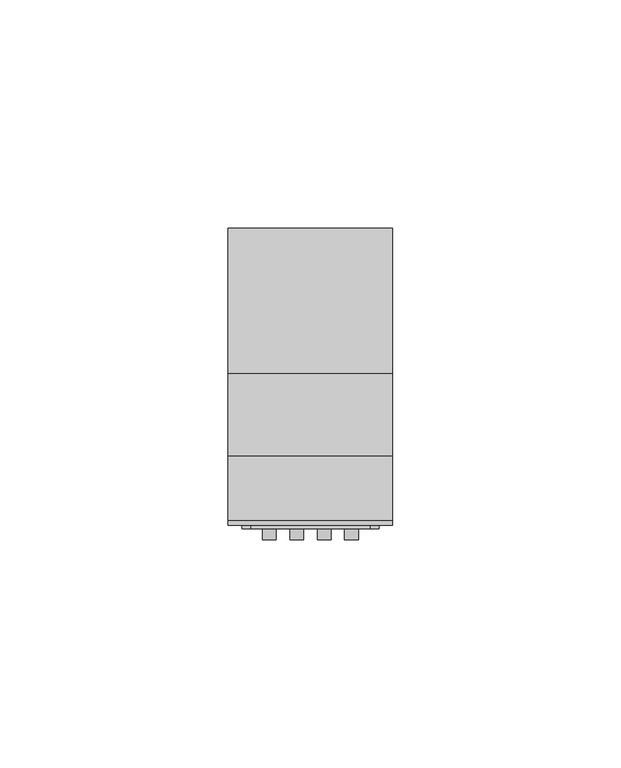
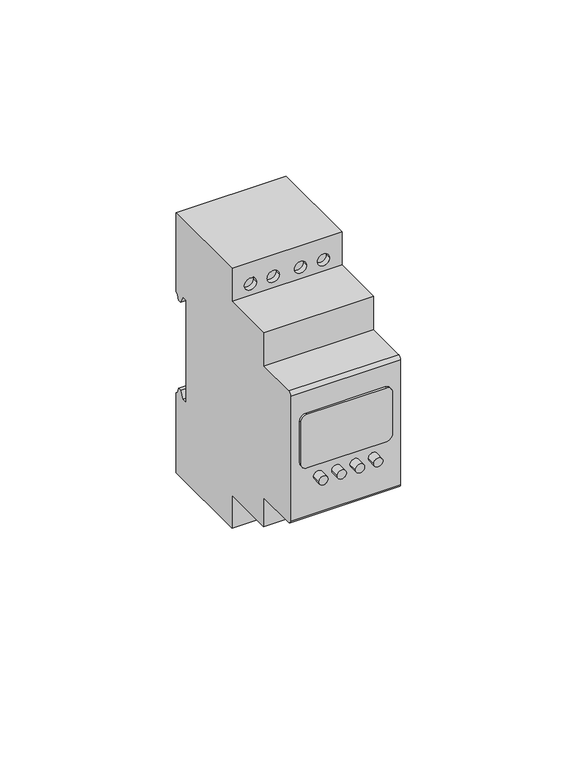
"""IFC4 building model written with IfcOpenShell, lengths in millimetres: proxy geometry, TDM_РЕЛЕ КОНТРОЛЯ НАПРЯЖЕНИЯ СЕРИИ РН 12 : РН 12-3х400/240 В."""

from ifc_helpers import new_model, si_unit, point, frame, frame_2d, origin, place, context, project, spatial, polyline, circle_curve, trimmed, segment, composite_curve, outline, extrude, source, transform, mapped, element, save
from ifc_brep_helpers import plane_surface, cylinder_surface, revolved_surface, advanced_brep


def electrical_equipment_0d89e3ab(model_context):
    return source(origin(), model_context, "Body", "SolidModel", [
        extrude(outline(composite_curve([segment(polyline([(13.2057143, 13.0), (13.2057143, -13.0)]), True, "CONTINUOUS"), segment(trimmed(circle_curve(frame_2d((11.2057143, -13.0)), 2.0), [point((13.2057143, -13.0))], [point((11.2057143, -15.0))], False, "CARTESIAN"), True, "CONTINUOUS"), segment(polyline([(11.2057143, -15.0), (-3.2942857, -15.0)]), True, "CONTINUOUS"), segment(trimmed(circle_curve(frame_2d((-3.2942857, -13.0)), 2.0), [point((-3.2942857, -15.0))], [point((-5.2942857, -13.0))], False, "CARTESIAN"), True, "CONTINUOUS"), segment(polyline([(-5.2942857, -13.0), (-5.2942857, 13.0)]), True, "CONTINUOUS"), segment(trimmed(circle_curve(frame_2d((-3.2942857, 13.0)), 2.0), [point((-5.2942857, 13.0))], [point((-3.2942857, 15.0))], False, "CARTESIAN"), True, "CONTINUOUS"), segment(polyline([(-3.2942857, 15.0), (11.2057143, 15.0)]), True, "CONTINUOUS"), segment(trimmed(circle_curve(frame_2d((11.2057143, 13.0)), 2.0), [point((11.2057143, 15.0))], [point((13.2057143, 13.0))], False, "CARTESIAN"), True, "CONTINUOUS")], self_intersect=False)), frame((0.0, -28.1760611, 0.0), z_axis=(0.0, 1.0, 0.0), x_axis=(0.0, 0.0, 1.0)), (0.0, 0.0, 1.0), 0.6760611),
        extrude(outline(composite_curve([segment(trimmed(circle_curve(frame_2d((-9.6256041, -3.0)), 1.5), [point((-9.6256041, -4.5))], [point((-9.6256041, -1.5))], False, "CARTESIAN"), True, "CONTINUOUS"), segment(trimmed(circle_curve(frame_2d((-9.6256041, -3.0)), 1.5), [point((-9.6256041, -1.5))], [point((-9.6256041, -4.5))], False, "CARTESIAN"), True, "CONTINUOUS")], self_intersect=False)), frame((0.0, -30.5593993, 0.0), z_axis=(0.0, 1.0, 0.0), x_axis=(0.0, 0.0, 1.0)), (0.0, 0.0, 1.0), 3.0593993),
        extrude(outline(composite_curve([segment(trimmed(circle_curve(frame_2d((-9.6256041, -9.0)), 1.5), [point((-9.6256041, -10.5))], [point((-9.6256041, -7.5))], False, "CARTESIAN"), True, "CONTINUOUS"), segment(trimmed(circle_curve(frame_2d((-9.6256041, -9.0)), 1.5), [point((-9.6256041, -7.5))], [point((-9.6256041, -10.5))], False, "CARTESIAN"), True, "CONTINUOUS")], self_intersect=False)), frame((0.0, -30.5593993, 0.0), z_axis=(0.0, 1.0, 0.0), x_axis=(0.0, 0.0, 1.0)), (0.0, 0.0, 1.0), 3.0593993),
        extrude(outline(composite_curve([segment(trimmed(circle_curve(frame_2d((-9.6256041, 3.0)), 1.5), [point((-9.6256041, 4.5))], [point((-9.6256041, 1.5))], False, "CARTESIAN"), True, "CONTINUOUS"), segment(trimmed(circle_curve(frame_2d((-9.6256041, 3.0)), 1.5), [point((-9.6256041, 1.5))], [point((-9.6256041, 4.5))], False, "CARTESIAN"), True, "CONTINUOUS")], self_intersect=False)), frame((0.0, -30.5593993, 0.0), z_axis=(0.0, 1.0, 0.0), x_axis=(0.0, 0.0, 1.0)), (0.0, 0.0, 1.0), 3.0593993),
        extrude(outline(composite_curve([segment(trimmed(circle_curve(frame_2d((-9.6256041, 9.0)), 1.5), [point((-9.6256041, 10.5))], [point((-9.6256041, 7.5))], False, "CARTESIAN"), True, "CONTINUOUS"), segment(trimmed(circle_curve(frame_2d((-9.6256041, 9.0)), 1.5), [point((-9.6256041, 7.5))], [point((-9.6256041, 10.5))], False, "CARTESIAN"), True, "CONTINUOUS")], self_intersect=False)), frame((0.0, -30.5593993, 0.0), z_axis=(0.0, 1.0, 0.0), x_axis=(0.0, 0.0, 1.0)), (0.0, 0.0, 1.0), 3.0593993),
        extrude(outline(polyline([(17.0, 16.6821204), (17.0, 7.9080349), (-17.0, 7.9080349), (-17.0, 16.6821204), (17.0, 16.6821204)])), frame((0.0, 0.0, -44.0625), z_axis=(0.0, 0.0, 1.0), x_axis=(1.0, 0.0, 0.0)), (0.0, 0.0, 1.0), 87.8126081),
        advanced_brep(
        [(18.0, 31.7632568, 18.2057143), (18.0, 33.4745816, 18.2057143), (18.0, 35.0790621, 15.4266726), (18.0, 36.2042493, 15.4266726), (18.0, 36.5256071, 17.2491835), (18.0, 37.5, 17.8117495), (18.0, 37.5, 45.0), (18.0, 5.7632568, 45.0), (18.0, 5.7632568, 33.5280507), (18.0, -12.2367432, 33.5280507), (18.0, -12.2367432, 22.0), (18.0, -26.3777313, 22.0), (18.0, -27.5, 20.8777313), (18.0, -27.5, -22.3875602), (18.0, -26.3875602, -23.5), (18.0, -12.2367432, -23.5), (18.0, -12.2367432, -33.5280507), (18.0, 5.7632568, -33.5280507), (18.0, 5.7632568, -45.0), (18.0, 37.5, -45.0), (18.0, 37.5, -17.4003208), (18.0, 36.5256071, -16.8377548), (18.0, 36.2042493, -15.0152439), (18.0, 35.0790621, -15.0152439), (18.0, 33.7632568, -17.2942857), (18.0, 31.7632568, -17.2942857), (-18.0, 31.7632568, 18.2057143), (-18.0, 31.7632568, -17.2942857), (-18.0, 33.7632568, -17.2942857), (-18.0, 35.0790621, -15.0152439), (-18.0, 36.2042493, -15.0152439), (-18.0, 36.5256071, -16.8377548), (-18.0, 37.5, -17.4003208), (-18.0, 37.5, -45.0), (-18.0, 5.7632568, -45.0), (-18.0, 5.7632568, -33.5280507), (-18.0, -12.2367432, -33.5280507), (-18.0, -12.2367432, -23.5), (-18.0, -26.3875602, -23.5), (-18.0, -27.5, -22.3875602), (-18.0, -27.5, 20.8777313), (-18.0, -26.3777313, 22.0), (-18.0, -12.2367432, 22.0), (-18.0, -12.2367432, 33.5280507), (-18.0, 5.7632568, 33.5280507), (-18.0, 5.7632568, 45.0), (-18.0, 37.5, 45.0), (-18.0, 37.5, 17.8117495), (-18.0, 36.5256071, 17.2491835), (-18.0, 36.2042493, 15.4266726), (-18.0, 35.0790621, 15.4266726), (-18.0, 33.4745816, 18.2057143), (-2.4760987, 9.3036074, -38.6885116), (-6.4760987, 9.3036074, -38.6885116), (-2.4760987, 9.3036074, 37.4385116), (-6.4760987, 9.3036074, 37.4385116), (-9.9760987, 9.3036074, -38.6885116), (-13.9760987, 9.3036074, -38.6885116), (-9.9760987, 9.3036074, 37.4385116), (-13.9760987, 9.3036074, 37.4385116), (2.4760987, 9.3036074, -38.6885116), (6.4760987, 9.3036074, -38.6885116), (2.4760987, 9.3036074, 37.4385116), (6.4760987, 9.3036074, 37.4385116), (9.9760987, 9.3036074, -38.6885116), (13.9760987, 9.3036074, -38.6885116), (9.9760987, 9.3036074, 37.4385116), (13.9760987, 9.3036074, 37.4385116), (-2.4760987, 5.7632568, -38.6885116), (-6.4760987, 5.7632568, -38.6885116), (-2.4760987, 5.7632568, 37.4385116), (-6.4760987, 5.7632568, 37.4385116), (-9.9760987, 5.7632568, -38.6885116), (-13.9760987, 5.7632568, -38.6885116), (-9.9760987, 5.7632568, 37.4385116), (-13.9760987, 5.7632568, 37.4385116), (2.4760987, 5.7632568, -38.6885116), (6.4760987, 5.7632568, -38.6885116), (2.4760987, 5.7632568, 37.4385116), (6.4760987, 5.7632568, 37.4385116), (9.9760987, 5.7632568, -38.6885116), (13.9760987, 5.7632568, -38.6885116), (9.9760987, 5.7632568, 37.4385116), (13.9760987, 5.7632568, 37.4385116)],
        [
            (0, 1),
            (1, 2),
            (2, 3),
            (3, 4),
            (4, 5),
            (5, 6),
            (6, 7),
            (7, 8),
            (8, 9),
            (9, 10),
            (10, 11),
            (11, 12, circle_curve(frame((18.0, -26.3777313, 20.8777313), z_axis=(1.0, 0.0, 0.0), x_axis=(0.0, -1.0, 0.0)), 1.1222687)),
            (12, 13),
            (13, 14, circle_curve(frame((18.0, -26.3875602, -22.3875602), z_axis=(1.0, 0.0, 0.0), x_axis=(0.0, -1.0, 0.0)), 1.1124398)),
            (14, 15),
            (15, 16),
            (16, 17),
            (17, 18),
            (18, 19),
            (19, 20),
            (20, 21),
            (21, 22),
            (22, 23),
            (23, 24),
            (24, 25),
            (25, 0),
            (26, 27),
            (27, 28),
            (28, 29),
            (29, 30),
            (30, 31),
            (31, 32),
            (32, 33),
            (33, 34),
            (34, 35),
            (35, 36),
            (36, 37),
            (37, 38),
            (38, 39, circle_curve(frame((-18.0, -26.3875602, -22.3875602), z_axis=(-1.0, 0.0, 0.0), x_axis=(0.0, -1.0, 0.0)), 1.1124398)),
            (39, 40),
            (40, 41, circle_curve(frame((-18.0, -26.3777313, 20.8777313), z_axis=(-1.0, 0.0, 0.0), x_axis=(0.0, -1.0, 0.0)), 1.1222687)),
            (41, 42),
            (42, 43),
            (43, 44),
            (44, 45),
            (45, 46),
            (46, 47),
            (47, 48),
            (48, 49),
            (49, 50),
            (50, 51),
            (51, 26),
            (0, 26),
            (51, 1),
            (50, 2),
            (49, 3),
            (48, 4),
            (47, 5),
            (46, 6),
            (45, 7),
            (10, 42),
            (41, 11),
            (40, 12),
            (39, 13),
            (14, 38),
            (37, 15),
            (18, 34),
            (33, 19),
            (32, 20),
            (31, 21),
            (30, 22),
            (29, 23),
            (28, 24),
            (27, 25),
            (52, 53, circle_curve(frame((-4.4760987, 9.3036074, -38.6885116), z_axis=(0.0, -1.0, 0.0), x_axis=(-1.0, 0.0, 0.0)), 2.0)),
            (53, 52, circle_curve(frame((-4.4760987, 9.3036074, -38.6885116), z_axis=(0.0, -1.0, 0.0), x_axis=(-1.0, 0.0, 0.0)), 2.0)),
            (54, 55, circle_curve(frame((-4.4760987, 9.3036074, 37.4385116), z_axis=(0.0, -1.0, 0.0), x_axis=(-1.0, 0.0, 0.0)), 2.0)),
            (55, 54, circle_curve(frame((-4.4760987, 9.3036074, 37.4385116), z_axis=(0.0, -1.0, 0.0), x_axis=(-1.0, 0.0, 0.0)), 2.0)),
            (56, 57, circle_curve(frame((-11.9760987, 9.3036074, -38.6885116), z_axis=(0.0, -1.0, 0.0), x_axis=(-1.0, 0.0, 0.0)), 2.0)),
            (57, 56, circle_curve(frame((-11.9760987, 9.3036074, -38.6885116), z_axis=(0.0, -1.0, 0.0), x_axis=(-1.0, 0.0, 0.0)), 2.0)),
            (58, 59, circle_curve(frame((-11.9760987, 9.3036074, 37.4385116), z_axis=(0.0, -1.0, 0.0), x_axis=(-1.0, 0.0, 0.0)), 2.0)),
            (59, 58, circle_curve(frame((-11.9760987, 9.3036074, 37.4385116), z_axis=(0.0, -1.0, 0.0), x_axis=(-1.0, 0.0, 0.0)), 2.0)),
            (60, 61, circle_curve(frame((4.4760987, 9.3036074, -38.6885116), z_axis=(0.0, -1.0, 0.0), x_axis=(1.0, 0.0, 0.0)), 2.0)),
            (61, 60, circle_curve(frame((4.4760987, 9.3036074, -38.6885116), z_axis=(0.0, -1.0, 0.0), x_axis=(1.0, 0.0, 0.0)), 2.0)),
            (62, 63, circle_curve(frame((4.4760987, 9.3036074, 37.4385116), z_axis=(0.0, -1.0, 0.0), x_axis=(1.0, 0.0, 0.0)), 2.0)),
            (63, 62, circle_curve(frame((4.4760987, 9.3036074, 37.4385116), z_axis=(0.0, -1.0, 0.0), x_axis=(1.0, 0.0, 0.0)), 2.0)),
            (64, 65, circle_curve(frame((11.9760987, 9.3036074, -38.6885116), z_axis=(0.0, -1.0, 0.0), x_axis=(1.0, 0.0, 0.0)), 2.0)),
            (65, 64, circle_curve(frame((11.9760987, 9.3036074, -38.6885116), z_axis=(0.0, -1.0, 0.0), x_axis=(1.0, 0.0, 0.0)), 2.0)),
            (66, 67, circle_curve(frame((11.9760987, 9.3036074, 37.4385116), z_axis=(0.0, -1.0, 0.0), x_axis=(1.0, 0.0, 0.0)), 2.0)),
            (67, 66, circle_curve(frame((11.9760987, 9.3036074, 37.4385116), z_axis=(0.0, -1.0, 0.0), x_axis=(1.0, 0.0, 0.0)), 2.0)),
            (52, 68),
            (68, 69, circle_curve(frame((-4.4760987, 5.7632568, -38.6885116), z_axis=(0.0, -1.0, 0.0), x_axis=(-1.0, 0.0, 0.0)), 2.0)),
            (69, 53),
            (69, 68, circle_curve(frame((-4.4760987, 5.7632568, -38.6885116), z_axis=(0.0, -1.0, 0.0), x_axis=(-1.0, 0.0, 0.0)), 2.0)),
            (54, 70),
            (70, 71, circle_curve(frame((-4.4760987, 5.7632568, 37.4385116), z_axis=(0.0, -1.0, 0.0), x_axis=(-1.0, 0.0, 0.0)), 2.0)),
            (71, 55),
            (71, 70, circle_curve(frame((-4.4760987, 5.7632568, 37.4385116), z_axis=(0.0, -1.0, 0.0), x_axis=(-1.0, 0.0, 0.0)), 2.0)),
            (56, 72),
            (72, 73, circle_curve(frame((-11.9760987, 5.7632568, -38.6885116), z_axis=(0.0, -1.0, 0.0), x_axis=(-1.0, 0.0, 0.0)), 2.0)),
            (73, 57),
            (73, 72, circle_curve(frame((-11.9760987, 5.7632568, -38.6885116), z_axis=(0.0, -1.0, 0.0), x_axis=(-1.0, 0.0, 0.0)), 2.0)),
            (58, 74),
            (74, 75, circle_curve(frame((-11.9760987, 5.7632568, 37.4385116), z_axis=(0.0, -1.0, 0.0), x_axis=(-1.0, 0.0, 0.0)), 2.0)),
            (75, 59),
            (75, 74, circle_curve(frame((-11.9760987, 5.7632568, 37.4385116), z_axis=(0.0, -1.0, 0.0), x_axis=(-1.0, 0.0, 0.0)), 2.0)),
            (60, 76),
            (76, 77, circle_curve(frame((4.4760987, 5.7632568, -38.6885116), z_axis=(0.0, -1.0, 0.0), x_axis=(1.0, 0.0, 0.0)), 2.0)),
            (77, 61),
            (77, 76, circle_curve(frame((4.4760987, 5.7632568, -38.6885116), z_axis=(0.0, -1.0, 0.0), x_axis=(1.0, 0.0, 0.0)), 2.0)),
            (62, 78),
            (78, 79, circle_curve(frame((4.4760987, 5.7632568, 37.4385116), z_axis=(0.0, -1.0, 0.0), x_axis=(1.0, 0.0, 0.0)), 2.0)),
            (79, 63),
            (79, 78, circle_curve(frame((4.4760987, 5.7632568, 37.4385116), z_axis=(0.0, -1.0, 0.0), x_axis=(1.0, 0.0, 0.0)), 2.0)),
            (64, 80),
            (80, 81, circle_curve(frame((11.9760987, 5.7632568, -38.6885116), z_axis=(0.0, -1.0, 0.0), x_axis=(1.0, 0.0, 0.0)), 2.0)),
            (81, 65),
            (81, 80, circle_curve(frame((11.9760987, 5.7632568, -38.6885116), z_axis=(0.0, -1.0, 0.0), x_axis=(1.0, 0.0, 0.0)), 2.0)),
            (66, 82),
            (82, 83, circle_curve(frame((11.9760987, 5.7632568, 37.4385116), z_axis=(0.0, -1.0, 0.0), x_axis=(1.0, 0.0, 0.0)), 2.0)),
            (83, 67),
            (83, 82, circle_curve(frame((11.9760987, 5.7632568, 37.4385116), z_axis=(0.0, -1.0, 0.0), x_axis=(1.0, 0.0, 0.0)), 2.0)),
            (44, 8),
            (43, 9),
            (36, 16),
            (35, 17),
        ],
        [
            plane_surface(frame((18.0, 31.7632568, 18.2057143), z_axis=(1.0, 0.0, 0.0), x_axis=(0.0, 1.0, 0.0))),
            plane_surface(frame((-18.0, 31.7632568, 18.2057143), z_axis=(-1.0, 0.0, 0.0), x_axis=(0.0, -1.0, 0.0))),
            plane_surface(frame((18.0, 31.7632568, 18.2057143), z_axis=(0.0, 0.0, -1.0), x_axis=(-1.0, 0.0, 0.0))),
            plane_surface(frame((18.0, 33.4745816, 18.2057143), z_axis=(0.0, -0.8660254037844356, -0.5000000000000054), x_axis=(-1.0, 0.0, 0.0))),
            plane_surface(frame((18.0, 35.0790621, 15.4266726), z_axis=(0.0, 0.0, -1.0), x_axis=(-1.0, 0.0, 0.0))),
            plane_surface(frame((18.0, 36.2042493, 15.4266726), z_axis=(0.0, 0.984807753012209, -0.17364817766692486), x_axis=(-1.0, 0.0, 0.0))),
            plane_surface(frame((18.0, 36.5256071, 17.2491835), z_axis=(0.0, 0.5000000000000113, -0.8660254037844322), x_axis=(-1.0, 0.0, 0.0))),
            plane_surface(frame((18.0, 37.5, 17.8117495), z_axis=(0.0, 1.0, 0.0), x_axis=(-1.0, 0.0, 0.0))),
            plane_surface(frame((18.0, 37.5, 45.0), z_axis=(0.0, 0.0, 1.0), x_axis=(-1.0, 0.0, 0.0))),
            plane_surface(frame((18.0, -12.2367432, 22.0), z_axis=(0.0, 0.0, 1.0), x_axis=(-1.0, 0.0, 0.0))),
            cylinder_surface(frame((-18.0, -26.3777313, 20.8777313), z_axis=(1.0, 0.0, 0.0), x_axis=(0.0, -1.0, 0.0)), 1.1222687),
            plane_surface(frame((18.0, -27.5, 20.8777313), z_axis=(0.0, -1.0, 0.0), x_axis=(-1.0, 0.0, 0.0))),
            plane_surface(frame((18.0, -26.3875602, -23.5), z_axis=(0.0, 0.0, -1.0), x_axis=(-1.0, 0.0, 0.0))),
            plane_surface(frame((18.0, 5.7632568, -45.0), z_axis=(0.0, 0.0, -1.0), x_axis=(-1.0, 0.0, 0.0))),
            plane_surface(frame((18.0, 37.5, -45.0), z_axis=(0.0, 1.0, 0.0), x_axis=(-1.0, 0.0, 0.0))),
            plane_surface(frame((18.0, 37.5, -17.4003208), z_axis=(0.0, 0.5000000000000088, 0.8660254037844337), x_axis=(-1.0, 0.0, 0.0))),
            plane_surface(frame((18.0, 36.5256071, -16.8377548), z_axis=(0.0, 0.9848077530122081, 0.17364817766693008), x_axis=(-1.0, 0.0, 0.0))),
            plane_surface(frame((18.0, 36.2042493, -15.0152439), z_axis=(0.0, 0.0, 1.0), x_axis=(-1.0, 0.0, 0.0))),
            plane_surface(frame((18.0, 35.0790621, -15.0152439), z_axis=(0.0, -0.8660254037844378, 0.5000000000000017), x_axis=(-1.0, 0.0, 0.0))),
            plane_surface(frame((18.0, 33.7632568, -17.2942857), z_axis=(0.0, 0.0, 1.0), x_axis=(-1.0, 0.0, 0.0))),
            plane_surface(frame((18.0, 31.7632568, -17.2942857), z_axis=(0.0, 1.0, 0.0), x_axis=(-1.0, 0.0, 0.0))),
            cylinder_surface(frame((-18.0, -26.3875602, -22.3875602), z_axis=(1.0, 0.0, 0.0), x_axis=(0.0, -1.0, 0.0)), 1.1124398),
            plane_surface(frame((-6.4760987, 9.3036074, -38.6885116), z_axis=(0.0, -1.0, 0.0), x_axis=(0.0, 0.0, 1.0))),
            revolved_surface(polyline([(-6.4760987, 5.7632568, -38.6885116), (-6.4760987, 9.3036074, -38.6885116)]), (-4.4760987, 9.3036074, -38.6885116), (0.0, -1.0, 0.0)),
            revolved_surface(polyline([(-6.4760987, 5.7632568, 37.4385116), (-6.4760987, 9.3036074, 37.4385116)]), (-4.4760987, 0.0, 37.4385116), (0.0, -1.0, 0.0)),
            revolved_surface(polyline([(-13.9760987, 5.7632568, -38.6885116), (-13.9760987, 9.3036074, -38.6885116)]), (-11.9760987, 0.0, -38.6885116), (0.0, -1.0, 0.0)),
            revolved_surface(polyline([(-13.9760987, 5.7632568, 37.4385116), (-13.9760987, 9.3036074, 37.4385116)]), (-11.9760987, 0.0, 37.4385116), (0.0, -1.0, 0.0)),
            revolved_surface(polyline([(6.4760987, 5.7632568, -38.6885116), (6.4760987, 9.3036074, -38.6885116)]), (4.4760987, 0.0, -38.6885116), (0.0, -1.0, 0.0)),
            revolved_surface(polyline([(6.4760987, 5.7632568, 37.4385116), (6.4760987, 9.3036074, 37.4385116)]), (4.4760987, 0.0, 37.4385116), (0.0, -1.0, 0.0)),
            revolved_surface(polyline([(13.9760987, 5.7632568, -38.6885116), (13.9760987, 9.3036074, -38.6885116)]), (11.9760987, 0.0, -38.6885116), (0.0, -1.0, 0.0)),
            revolved_surface(polyline([(13.9760987, 5.7632568, 37.4385116), (13.9760987, 9.3036074, 37.4385116)]), (11.9760987, 0.0, 37.4385116), (0.0, -1.0, 0.0)),
            plane_surface(frame((18.0, 5.7632568, 45.0), z_axis=(0.0, -1.0, 0.0), x_axis=(-1.0, 0.0, 0.0))),
            plane_surface(frame((18.0, 5.7632568, 33.5280507), z_axis=(0.0, 0.0, 1.0), x_axis=(-1.0, 0.0, 0.0))),
            plane_surface(frame((18.0, -12.2367432, 33.5280507), z_axis=(0.0, -1.0, 0.0), x_axis=(-1.0, 0.0, 0.0))),
            plane_surface(frame((18.0, -12.2367432, -23.5), z_axis=(0.0, -1.0, 0.0), x_axis=(-1.0, 0.0, 0.0))),
            plane_surface(frame((18.0, -12.2367432, -33.5280507), z_axis=(0.0, 0.0, -1.0), x_axis=(-1.0, 0.0, 0.0))),
            plane_surface(frame((18.0, 5.7632568, -33.5280507), z_axis=(0.0, -1.0, 0.0), x_axis=(-1.0, 0.0, 0.0))),
        ],
        [
            (0, [[1, 2, 3, 4, 5, 6, 7, 8, 9, 10, 11, 12, 13, 14, 15, 16, 17, 18, 19, 20, 21, 22, 23, 24, 25, 26]]),
            (1, [[27, 28, 29, 30, 31, 32, 33, 34, 35, 36, 37, 38, 39, 40, 41, 42, 43, 44, 45, 46, 47, 48, 49, 50, 51, 52]]),
            (2, [[-1, 53, -52, 54]]),
            (3, [[-2, -54, -51, 55]]),
            (4, [[-3, -55, -50, 56]]),
            (5, [[-4, -56, -49, 57]]),
            (6, [[-5, -57, -48, 58]]),
            (7, [[-6, -58, -47, 59]]),
            (8, [[-7, -59, -46, 60]]),
            (9, [[-11, 61, -42, 62]]),
            (10, [[-12, -62, -41, 63]]),
            (11, [[-13, -63, -40, 64]]),
            (12, [[-15, 65, -38, 66]]),
            (13, [[-19, 67, -34, 68]]),
            (14, [[-20, -68, -33, 69]]),
            (15, [[-21, -69, -32, 70]]),
            (16, [[-22, -70, -31, 71]]),
            (17, [[-23, -71, -30, 72]]),
            (18, [[-24, -72, -29, 73]]),
            (19, [[-25, -73, -28, 74]]),
            (20, [[-26, -74, -27, -53]]),
            (21, [[-14, -64, -39, -65]]),
            (22, [[75, 76]]),
            (22, [[77, 78]]),
            (22, [[79, 80]]),
            (22, [[81, 82]]),
            (22, [[83, 84]]),
            (22, [[85, 86]]),
            (22, [[87, 88]]),
            (22, [[89, 90]]),
            (23, [[-75, 91, 92, 93]]),
            (23, [[-76, -93, 94, -91]]),
            (24, [[-77, 95, 96, 97]]),
            (24, [[-78, -97, 98, -95]]),
            (25, [[-79, 99, 100, 101]]),
            (25, [[-80, -101, 102, -99]]),
            (26, [[-81, 103, 104, 105]]),
            (26, [[-82, -105, 106, -103]]),
            (27, [[-83, 107, 108, 109]]),
            (27, [[-84, -109, 110, -107]]),
            (28, [[-85, 111, 112, 113]]),
            (28, [[-86, -113, 114, -111]]),
            (29, [[-87, 115, 116, 117]]),
            (29, [[-88, -117, 118, -115]]),
            (30, [[-89, 119, 120, 121]]),
            (30, [[-90, -121, 122, -119]]),
            (31, [[-8, -60, -45, 123], [-96, -98], [-104, -106], [-112, -114], [-120, -122]]),
            (32, [[-9, -123, -44, 124]]),
            (33, [[-10, -124, -43, -61]]),
            (34, [[-16, -66, -37, 125]]),
            (35, [[-17, -125, -36, 126]]),
            (36, [[-18, -126, -35, -67], [-92, -94], [-100, -102], [-108, -110], [-116, -118]]),
        ],
    ),
    ])


if __name__ == "__main__":
    model = new_model("IFC4")
    model_context = context("Model", 3, world=origin())
    ifc_project = project(units=[si_unit("LENGTHUNIT", "METRE", prefix="MILLI")], contexts=[model_context])
    site = spatial("IfcSite", under=ifc_project)
    building = spatial("IfcBuilding", under=site)
    placement = place(None, origin())
    electrical_equipment_shape = electrical_equipment_0d89e3ab(model_context)
    element("IfcBuildingElementProxy", 1, Name="TDM_РЕЛЕ КОНТРОЛЯ НАПРЯЖЕНИЯ СЕРИИ РН 12 : РН 12-3х400/240 В", ObjectType="TDM_РЕЛЕ КОНТРОЛЯ НАПРЯЖЕНИЯ СЕРИИ РН 12 : РН 12-3х400/240 В", at=placement, inside=building, context=model_context, shape_type="MappedRepresentation", body=[
        mapped(electrical_equipment_shape, transform((0.0, 0.0, 0.0), x_axis=(1.0, 0.0, 0.0), y_axis=(0.0, 1.0, 0.0), z_axis=(0.0, 0.0, 1.0))),
    ])
    save(model, "model.ifc")
